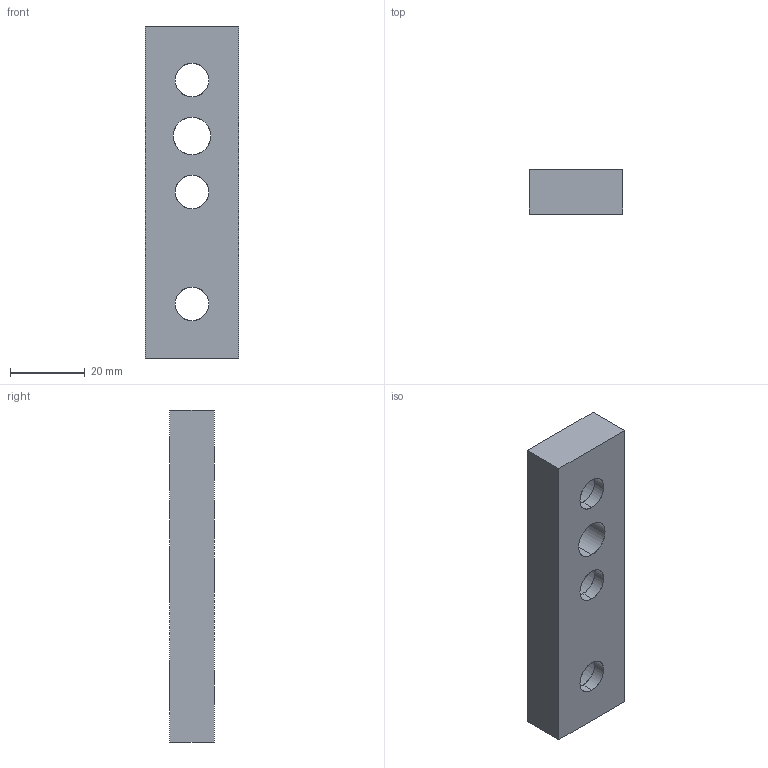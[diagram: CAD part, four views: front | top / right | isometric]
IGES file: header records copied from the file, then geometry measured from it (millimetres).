
Start section: SolidWorks IGES file using analytic representation for surfaces
Global section: file name: C:\Documents and Settings\Administrator\デスクトップ\指定保存後3回目\SolidWorks\SF\SF30\Parts\SFK-52A.IGS; native system: SolidWorks 2006 by SolidWorks Corporation; preprocessor: SolidWorks 2006 by SolidWorks Corporation; author: Administrator; date: 061213.105900; units: millimetre
Bounding box: 25 x 12 x 89 mm (x, y, z)
Surface area: 8447.3 mm2 (no closed solid volume)
Topology: 0 solids, 0 shells, 23 faces, 582 edges, 636 vertices
Faces by surface type: revolution 14, bspline 9
